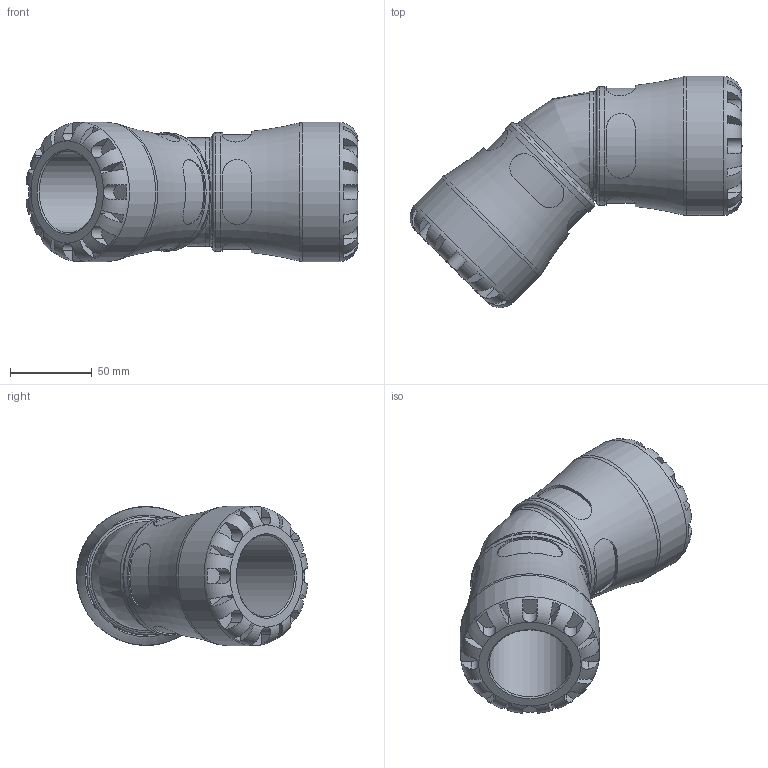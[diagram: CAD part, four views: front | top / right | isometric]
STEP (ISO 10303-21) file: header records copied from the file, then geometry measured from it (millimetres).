
FILE_DESCRIPTION(/* description */ ('PLASSON G-PLASS 45° ELBOW 50-50'),/* implementation_level */ '2;1');
FILE_NAME(/* name */ 'C:\Dropbox\KIMPROJECTS-Inventor 2019\99-16-3568-Processing\S1\150600\stp\150600050.stp',/* time_stamp */ '2023-10-17T19:37:04+03:00',/* author */ ('KIM'),/* organization */ (''),/* preprocessor_version */ 'ST-DEVELOPER v17.2',/* originating_system */ 'Autodesk Inventor 2019',/* authorisation */ '');
FILE_SCHEMA (('AUTOMOTIVE_DESIGN { 1 0 10303 214 3 1 1 }'));
Length unit declared in the file: millimetre
Products named in the file (1): 150600050
Bounding box: 202.74 x 141.24 x 85 mm (x, y, z)
Volume: 573477.7 mm3; surface area: 94618.4 mm2
Topology: 1 solids, 1 shells, 196 faces, 524 edges, 336 vertices
Faces by surface type: plane 116, cylinder 66, torus 11, cone 2, bspline 1
Full cylindrical faces by diameter (mm): 41.667 x2, 50 x2, 72.25 x2, 85 x2
Entity records: 8045 total; most frequent: CARTESIAN_POINT 3007, ORIENTED_EDGE 1044, DIRECTION 1006, EDGE_CURVE 522, AXIS2_PLACEMENT_3D 418, VERTEX_POINT 336, CIRCLE 220, EDGE_LOOP 206
